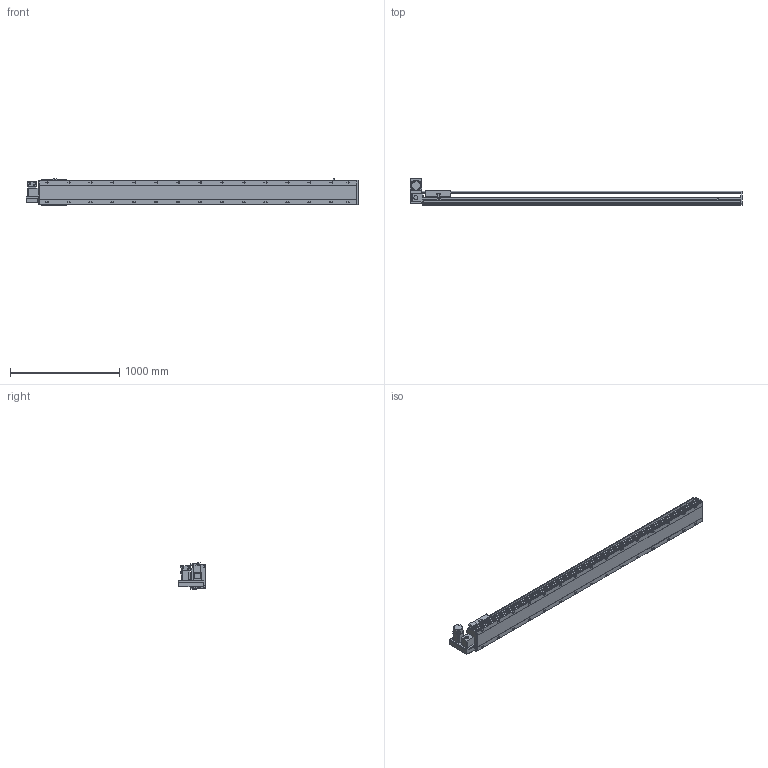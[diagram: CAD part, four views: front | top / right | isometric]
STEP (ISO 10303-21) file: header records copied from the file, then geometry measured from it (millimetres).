
FILE_DESCRIPTION(/* description */ ('STEP AP214'),/* implementation_level */ '2;1');
FILE_NAME(/* name */ 'PBS220-P40-S2550-LU-T75-C1-N(0)',/* time_stamp */ '2022-06-13T02:37:02+02:00',/* author */ ('License CC BY-ND 4.0'),/* organization */ ('CADENAS'),/* preprocessor_version */ 'ST-DEVELOPER v18.102',/* originating_system */ 'PARTsolutions',/* authorisation */ ' ');
FILE_SCHEMA (('AUTOMOTIVE_DESIGN {1 0 10303 214 3 1 1}'));
Length unit declared in the file: millimetre
Products named in the file (7): PBS220-P40-S2550-LU-T75-C1-N(0); PBS220_sensor; PBS220_plant; PBS220_sliser; T75-p1; PBS220T-LU_motors; PBS220-S2550()_body
Assembly tree (8 placements, depth 2):
  PBS220-P40-S2550-LU-T75-C1-N(0)
    PBS220_sensor  x3
    PBS220_plant
    PBS220_sliser
    T75-p1
    PBS220T-LU_motors
    PBS220-S2550()_body
Bounding box: 3034 x 247 x 238.5 mm (x, y, z)
Volume: 42332648.5 mm3; surface area: 3876456.3 mm2
Topology: 8 solids, 8 shells, 998 faces, 2592 edges, 1684 vertices
Faces by surface type: plane 626, cylinder 318, cone 54
Full cylindrical faces by diameter (mm): 2.013 x4, 4.5 x14, 4.917 x4, 6 x7, 6.647 x8, 8 x10, 8.376 x30, 8.5 x30, 10 x6, 14 x30, 38 x2, 40 x1, 70 x1
Entity records: 27813 total; most frequent: CARTESIAN_POINT 4954, DIRECTION 4833, ORIENTED_EDGE 4358, EDGE_CURVE 2179, AXIS2_PLACEMENT_3D 1737, VERTEX_POINT 1528, LINE 1359, VECTOR 1359
